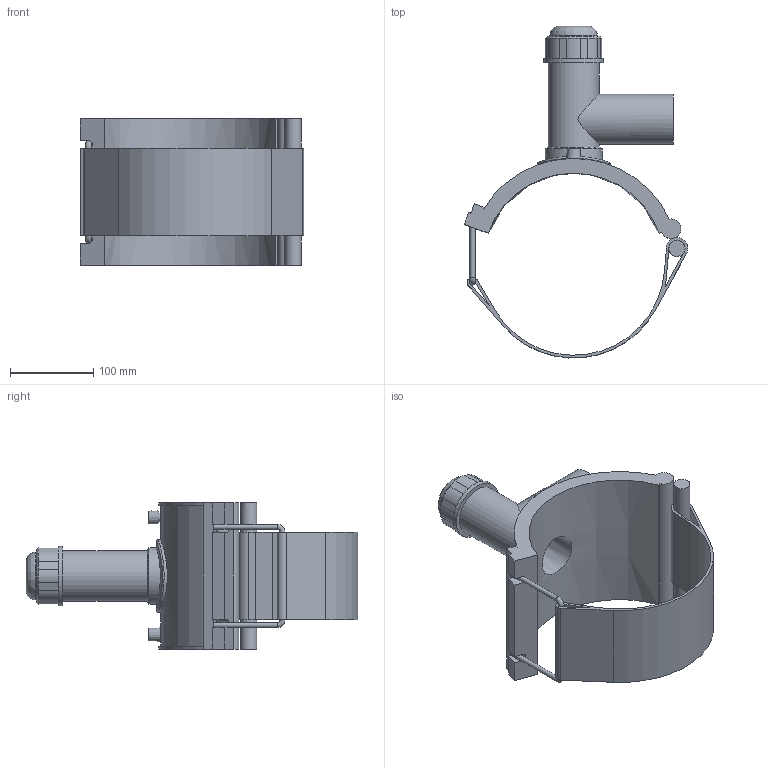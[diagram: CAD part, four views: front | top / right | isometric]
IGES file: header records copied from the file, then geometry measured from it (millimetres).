
Global section: file name: 5963BB03080020.ipt; native system: Autodesk Inventor 2019; preprocessor: unknown; author: KIM; date: 20210830.101435; units: millimetre
Bounding box: 268.63 x 398.85 x 176.02 mm (x, y, z)
Volume: 1474849.8 mm3; surface area: 335745.8 mm2
Topology: 2 solids, 2 shells, 122 faces, 304 edges, 195 vertices
Faces by surface type: plane 69, cylinder 29, revolution 12, cone 11, bspline 1
Full cylindrical faces by diameter (mm): 4 x2, 6.124 x2, 19.347 x1, 57.387 x1, 60.1 x1, 60.974 x1, 68.147 x1, 71.734 x1, 87.48 x1
